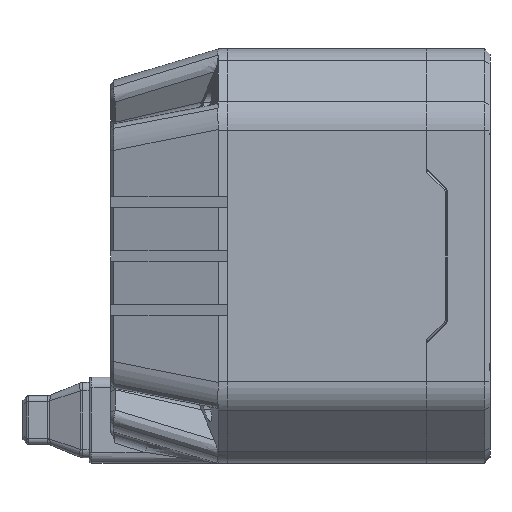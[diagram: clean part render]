
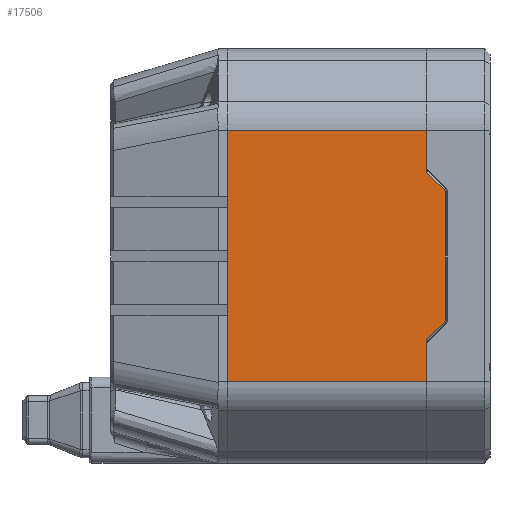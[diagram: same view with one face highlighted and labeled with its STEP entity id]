
A CAD part, front view. The second image highlights one B-rep face of the part: STEP entity #17506.
In plain terms, the highlighted planar face has unit normal (0, -1, 0).
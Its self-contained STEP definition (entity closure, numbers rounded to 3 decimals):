
#14069=DIRECTION('',(0.,0.,1.));
#14070=VECTOR('',#14069,46.787);
#14071=CARTESIAN_POINT('',(-1.3,-38.5,-23.393));
#14072=LINE('',#14071,#14070);
#14228=DIRECTION('',(0.,0.,1.));
#14229=VECTOR('',#14228,7.818);
#14230=CARTESIAN_POINT('',(35.7,-38.5,-23.393));
#14231=LINE('',#14230,#14229);
#14324=DIRECTION('',(0.,0.,1.));
#14325=VECTOR('',#14324,7.818);
#14326=CARTESIAN_POINT('',(35.7,-38.5,15.576));
#14327=LINE('',#14326,#14325);
#14736=DIRECTION('',(-0.707,0.,0.707));
#14737=VECTOR('',#14736,4.66);
#14738=CARTESIAN_POINT('',(38.995,-38.5,12.281));
#14739=LINE('',#14738,#14737);
#14740=CARTESIAN_POINT('',(38.5,-38.5,11.786));
#14741=DIRECTION('',(0.,-1.,0.));
#14742=DIRECTION('',(1.,0.,0.));
#14743=AXIS2_PLACEMENT_3D('',#14740,#14741,#14742);
#14745=DIRECTION('',(0.,0.,1.));
#14746=VECTOR('',#14745,23.572);
#14747=CARTESIAN_POINT('',(39.2,-38.5,-11.786));
#14748=LINE('',#14747,#14746);
#14749=CARTESIAN_POINT('',(38.5,-38.5,-11.786));
#14750=DIRECTION('',(0.,-1.,0.));
#14751=DIRECTION('',(0.707,0.,-0.707));
#14752=AXIS2_PLACEMENT_3D('',#14749,#14750,#14751);
#14754=DIRECTION('',(0.707,0.,0.707));
#14755=VECTOR('',#14754,4.66);
#14756=CARTESIAN_POINT('',(35.7,-38.5,-15.576));
#14757=LINE('',#14756,#14755);
#14758=DIRECTION('',(-1.,0.,0.));
#14759=VECTOR('',#14758,37.);
#14760=CARTESIAN_POINT('',(35.7,-38.5,-23.393));
#14761=LINE('',#14760,#14759);
#14998=DIRECTION('',(-1.,0.,0.));
#14999=VECTOR('',#14998,37.);
#15000=CARTESIAN_POINT('',(35.7,-38.5,23.393));
#15001=LINE('',#15000,#14999);
#15847=CARTESIAN_POINT('',(-1.3,-38.5,-23.393));
#15848=VERTEX_POINT('',#15847);
#15849=CARTESIAN_POINT('',(-1.3,-38.5,23.393));
#15850=VERTEX_POINT('',#15849);
#15973=CARTESIAN_POINT('',(35.7,-38.5,-23.393));
#15974=VERTEX_POINT('',#15973);
#15975=CARTESIAN_POINT('',(35.7,-38.5,23.393));
#15976=VERTEX_POINT('',#15975);
#16333=CARTESIAN_POINT('',(38.995,-38.5,12.281));
#16334=CARTESIAN_POINT('',(35.7,-38.5,15.576));
#16335=VERTEX_POINT('',#16333);
#16336=VERTEX_POINT('',#16334);
#16337=CARTESIAN_POINT('',(39.2,-38.5,11.786));
#16338=VERTEX_POINT('',#16337);
#16343=CARTESIAN_POINT('',(39.2,-38.5,-11.786));
#16344=VERTEX_POINT('',#16343);
#16347=CARTESIAN_POINT('',(38.995,-38.5,-12.281));
#16348=VERTEX_POINT('',#16347);
#16351=CARTESIAN_POINT('',(35.7,-38.5,-15.576));
#16352=VERTEX_POINT('',#16351);
#17483=CARTESIAN_POINT('',(0.,-38.5,26.5));
#17484=DIRECTION('',(0.,-1.,0.));
#17485=DIRECTION('',(0.,0.,-1.));
#17486=AXIS2_PLACEMENT_3D('',#17483,#17484,#17485);
#17487=PLANE('',#17486);
#17489=ORIENTED_EDGE('',*,*,#17488,.F.);
#17490=ORIENTED_EDGE('',*,*,#17473,.F.);
#17492=ORIENTED_EDGE('',*,*,#17491,.F.);
#17494=ORIENTED_EDGE('',*,*,#17493,.F.);
#17496=ORIENTED_EDGE('',*,*,#17495,.F.);
#17497=ORIENTED_EDGE('',*,*,#16878,.F.);
#17499=ORIENTED_EDGE('',*,*,#17498,.T.);
#17500=ORIENTED_EDGE('',*,*,#16758,.T.);
#17502=ORIENTED_EDGE('',*,*,#17501,.F.);
#17503=ORIENTED_EDGE('',*,*,#16934,.F.);
#17504=EDGE_LOOP('',(#17489,#17490,#17492,#17494,#17496,#17497,#17499,#17500,
#17502,#17503));
#17505=FACE_OUTER_BOUND('',#17504,.F.);
#17506=ADVANCED_FACE('',(#17505),#17487,.T.);
#14744=CIRCLE('',#14743,0.7);
#14753=CIRCLE('',#14752,0.7);
#16758=EDGE_CURVE('',#15848,#15850,#14072,.T.);
#16878=EDGE_CURVE('',#15974,#16352,#14231,.T.);
#16934=EDGE_CURVE('',#16336,#15976,#14327,.T.);
#17473=EDGE_CURVE('',#16338,#16335,#14744,.T.);
#17488=EDGE_CURVE('',#16335,#16336,#14739,.T.);
#17491=EDGE_CURVE('',#16344,#16338,#14748,.T.);
#17493=EDGE_CURVE('',#16348,#16344,#14753,.T.);
#17495=EDGE_CURVE('',#16352,#16348,#14757,.T.);
#17498=EDGE_CURVE('',#15974,#15848,#14761,.T.);
#17501=EDGE_CURVE('',#15976,#15850,#15001,.T.);
